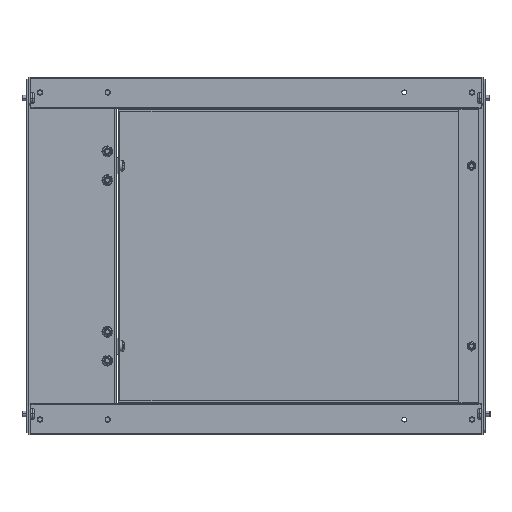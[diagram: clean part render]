
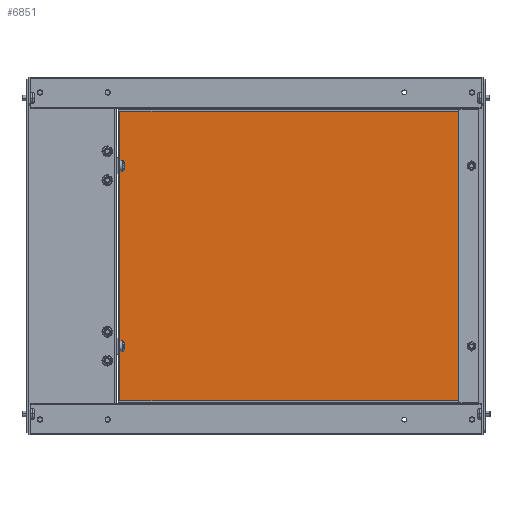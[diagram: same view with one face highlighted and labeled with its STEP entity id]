
A CAD part, left-side view. The second image highlights one B-rep face of the part: STEP entity #6851.
In plain terms, the highlighted planar face has unit normal (-1, 0, 0).
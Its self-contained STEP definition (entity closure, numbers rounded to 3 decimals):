
#26 = ORIENTED_EDGE ( 'NONE', *, *, #24065, .T. ) ;
#423 = CARTESIAN_POINT ( 'NONE',  ( 75.411, 366.602, -491.197 ) ) ;
#1815 = EDGE_CURVE ( 'NONE', #6443, #16781, #10580, .T. ) ;
#2528 = VERTEX_POINT ( 'NONE', #17486 ) ;
#2956 = FACE_OUTER_BOUND ( 'NONE', #6045, .T. ) ;
#4491 = VECTOR ( 'NONE', #5146, 1000. ) ;
#5146 = DIRECTION ( 'NONE',  ( 0., 0., -1. ) ) ;
#6045 = EDGE_LOOP ( 'NONE', ( #14873, #24108, #26, #24402 ) ) ;
#6443 = VERTEX_POINT ( 'NONE', #16128 ) ;
#6851 = ADVANCED_FACE ( 'NONE', ( #2956 ), #7177, .T. ) ;
#7177 = PLANE ( 'NONE',  #8041 ) ;
#7930 = VECTOR ( 'NONE', #8509, 1000. ) ;
#8041 = AXIS2_PLACEMENT_3D ( 'NONE', #13866, #22007, #9256 ) ;
#8509 = DIRECTION ( 'NONE',  ( 0., 0., 1. ) ) ;
#8634 = EDGE_CURVE ( 'NONE', #15349, #2528, #11028, .T. ) ;
#9249 = CARTESIAN_POINT ( 'NONE',  ( 75.411, 178.852, -651.697 ) ) ;
#9256 = DIRECTION ( 'NONE',  ( 0., 0., 1. ) ) ;
#10580 = LINE ( 'NONE', #27640, #7930 ) ;
#11028 = LINE ( 'NONE', #423, #4491 ) ;
#11286 = CARTESIAN_POINT ( 'NONE',  ( 75.411, 178.852, -330.697 ) ) ;
#11473 = LINE ( 'NONE', #9249, #27280 ) ;
#12383 = VECTOR ( 'NONE', #17442, 1000. ) ;
#12816 = LINE ( 'NONE', #11286, #12383 ) ;
#13866 = CARTESIAN_POINT ( 'NONE',  ( 75.411, 178.852, -491.197 ) ) ;
#14873 = ORIENTED_EDGE ( 'NONE', *, *, #17312, .T. ) ;
#15349 = VERTEX_POINT ( 'NONE', #21275 ) ;
#16128 = CARTESIAN_POINT ( 'NONE',  ( 75.411, -8.898, -651.697 ) ) ;
#16781 = VERTEX_POINT ( 'NONE', #21235 ) ;
#17312 = EDGE_CURVE ( 'NONE', #16781, #15349, #12816, .T. ) ;
#17442 = DIRECTION ( 'NONE',  ( 0., 1., 0. ) ) ;
#17486 = CARTESIAN_POINT ( 'NONE',  ( 75.411, 366.602, -651.697 ) ) ;
#21235 = CARTESIAN_POINT ( 'NONE',  ( 75.411, -8.898, -330.697 ) ) ;
#21275 = CARTESIAN_POINT ( 'NONE',  ( 75.411, 366.602, -330.697 ) ) ;
#22007 = DIRECTION ( 'NONE',  ( -1., 0., 0. ) ) ;
#22539 = DIRECTION ( 'NONE',  ( 0., -1., 0. ) ) ;
#24065 = EDGE_CURVE ( 'NONE', #2528, #6443, #11473, .T. ) ;
#24108 = ORIENTED_EDGE ( 'NONE', *, *, #8634, .T. ) ;
#24402 = ORIENTED_EDGE ( 'NONE', *, *, #1815, .T. ) ;
#27280 = VECTOR ( 'NONE', #22539, 1000. ) ;
#27640 = CARTESIAN_POINT ( 'NONE',  ( 75.411, -8.898, -491.197 ) ) ;
